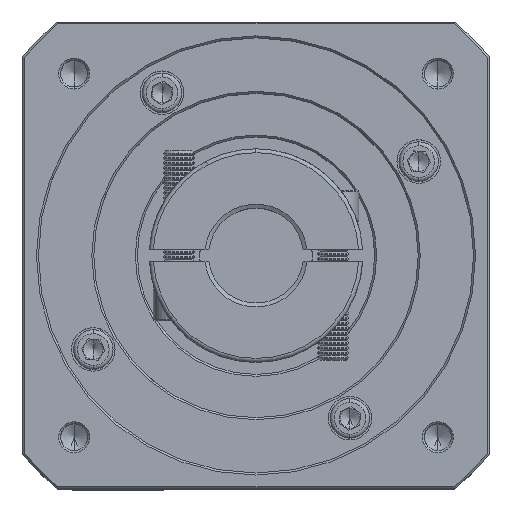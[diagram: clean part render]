
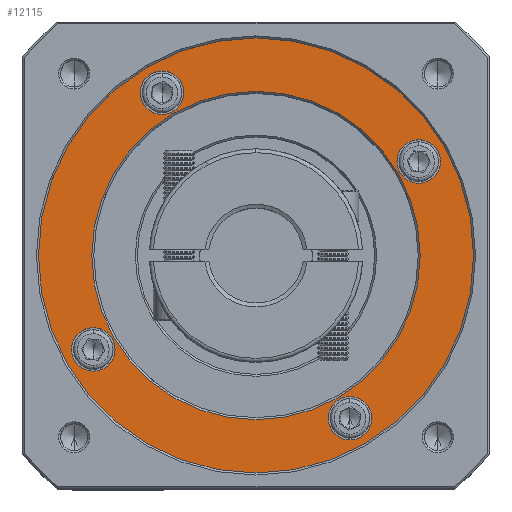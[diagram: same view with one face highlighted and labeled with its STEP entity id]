
A CAD part, top view. The second image highlights one B-rep face of the part: STEP entity #12115.
In plain terms, the highlighted planar face has unit normal (0, 0, 1).
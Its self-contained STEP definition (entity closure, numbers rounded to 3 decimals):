
#3587 = CARTESIAN_POINT ( 'NONE',  ( 52.682, 61.973, 0.694 ) ) ;
#4016 = DIRECTION ( 'NONE',  ( 0., 1., 0. ) ) ;
#7569 = DIRECTION ( 'NONE',  ( 0., 1., 0. ) ) ;
#9487 = DIRECTION ( 'NONE',  ( 0., 0., -1. ) ) ;
#9912 = VERTEX_POINT ( 'NONE', #119466 ) ;
#10875 = FACE_BOUND ( 'NONE', #60666, .T. ) ;
#12115 = ADVANCED_FACE ( 'NONE', ( #126047, #95680, #113241, #62025, #10875, #116435 ), #22321, .T. ) ;
#14175 = AXIS2_PLACEMENT_3D ( 'NONE', #40056, #28934, #100478 ) ;
#18204 = ORIENTED_EDGE ( 'NONE', *, *, #61843, .T. ) ;
#19262 = AXIS2_PLACEMENT_3D ( 'NONE', #126861, #106315, #4016 ) ;
#20558 = ORIENTED_EDGE ( 'NONE', *, *, #48011, .T. ) ;
#20564 = AXIS2_PLACEMENT_3D ( 'NONE', #37113, #37549, #7569 ) ;
#22298 = CIRCLE ( 'NONE', #82133, 5.5 ) ;
#22321 = PLANE ( 'NONE',  #125877 ) ;
#23025 = VERTEX_POINT ( 'NONE', #40121 ) ;
#24941 = VERTEX_POINT ( 'NONE', #72795 ) ;
#25771 = EDGE_CURVE ( 'NONE', #24941, #64041, #34352, .T. ) ;
#26995 = AXIS2_PLACEMENT_3D ( 'NONE', #65155, #65602, #53942 ) ;
#28934 = DIRECTION ( 'NONE',  ( 0., 0., 1. ) ) ;
#29807 = EDGE_CURVE ( 'NONE', #129492, #73311, #79241, .T. ) ;
#29946 = EDGE_LOOP ( 'NONE', ( #18204, #109096 ) ) ;
#30282 = DIRECTION ( 'NONE',  ( 0., 1., 0. ) ) ;
#32166 = DIRECTION ( 'NONE',  ( 0., 1., 0. ) ) ;
#32607 = CARTESIAN_POINT ( 'NONE',  ( 93.818, 85.723, 0.694 ) ) ;
#34296 = DIRECTION ( 'NONE',  ( 0., 0., -1. ) ) ;
#34352 = CIRCLE ( 'NONE', #56051, 5.5 ) ;
#34883 = CIRCLE ( 'NONE', #115845, 5.5 ) ;
#37113 = CARTESIAN_POINT ( 'NONE',  ( 76.432, 20.837, 0.694 ) ) ;
#37549 = DIRECTION ( 'NONE',  ( 0., 0., -1. ) ) ;
#37645 = ORIENTED_EDGE ( 'NONE', *, *, #29807, .T. ) ;
#38242 = DIRECTION ( 'NONE',  ( 0., 0., -1. ) ) ;
#38803 = CIRCLE ( 'NONE', #130133, 5.5 ) ;
#39765 = EDGE_CURVE ( 'NONE', #9912, #23025, #22298, .T. ) ;
#40056 = CARTESIAN_POINT ( 'NONE',  ( 52.682, 61.973, 0.694 ) ) ;
#40121 = CARTESIAN_POINT ( 'NONE',  ( 11.546, 43.723, 0.694 ) ) ;
#41988 = DIRECTION ( 'NONE',  ( 0., 1., 0. ) ) ;
#42368 = EDGE_CURVE ( 'NONE', #108061, #117713, #61515, .T. ) ;
#42497 = EDGE_CURVE ( 'NONE', #117713, #108061, #83955, .T. ) ;
#42812 = EDGE_LOOP ( 'NONE', ( #112972, #37645 ) ) ;
#43541 = CARTESIAN_POINT ( 'NONE',  ( 52.682, 61.973, 0.694 ) ) ;
#44827 = EDGE_CURVE ( 'NONE', #129793, #60375, #106719, .T. ) ;
#45496 = ORIENTED_EDGE ( 'NONE', *, *, #42497, .T. ) ;
#45635 = CIRCLE ( 'NONE', #130362, 41.5 ) ;
#47298 = ORIENTED_EDGE ( 'NONE', *, *, #87938, .T. ) ;
#48011 = EDGE_CURVE ( 'NONE', #23025, #9912, #51060, .T. ) ;
#51060 = CIRCLE ( 'NONE', #102273, 5.5 ) ;
#51726 = CARTESIAN_POINT ( 'NONE',  ( 28.932, 103.11, 0.694 ) ) ;
#52371 = CARTESIAN_POINT ( 'NONE',  ( 94.182, 61.973, 0.694 ) ) ;
#53942 = DIRECTION ( 'NONE',  ( 0., 1., 0. ) ) ;
#55680 = ORIENTED_EDGE ( 'NONE', *, *, #76349, .T. ) ;
#56051 = AXIS2_PLACEMENT_3D ( 'NONE', #75930, #34296, #105410 ) ;
#58363 = DIRECTION ( 'NONE',  ( 0., 1., 0. ) ) ;
#60011 = CARTESIAN_POINT ( 'NONE',  ( 11.546, 38.223, 0.694 ) ) ;
#60375 = VERTEX_POINT ( 'NONE', #103733 ) ;
#60666 = EDGE_LOOP ( 'NONE', ( #20558, #130521 ) ) ;
#61515 = CIRCLE ( 'NONE', #19262, 55. ) ;
#61843 = EDGE_CURVE ( 'NONE', #112682, #125618, #80383, .T. ) ;
#62025 = FACE_BOUND ( 'NONE', #29946, .T. ) ;
#63973 = AXIS2_PLACEMENT_3D ( 'NONE', #32607, #82764, #41988 ) ;
#64041 = VERTEX_POINT ( 'NONE', #120925 ) ;
#64574 = DIRECTION ( 'NONE',  ( 0., 0., -1. ) ) ;
#65155 = CARTESIAN_POINT ( 'NONE',  ( 76.432, 20.837, 0.694 ) ) ;
#65602 = DIRECTION ( 'NONE',  ( 0., 0., -1. ) ) ;
#66557 = ORIENTED_EDGE ( 'NONE', *, *, #44827, .T. ) ;
#72325 = EDGE_LOOP ( 'NONE', ( #45496, #110145 ) ) ;
#72795 = CARTESIAN_POINT ( 'NONE',  ( 28.932, 97.61, 0.694 ) ) ;
#73311 = VERTEX_POINT ( 'NONE', #77010 ) ;
#75930 = CARTESIAN_POINT ( 'NONE',  ( 28.932, 103.11, 0.694 ) ) ;
#75995 = DIRECTION ( 'NONE',  ( 1., 0., 0. ) ) ;
#76349 = EDGE_CURVE ( 'NONE', #60375, #129793, #45635, .T. ) ;
#77010 = CARTESIAN_POINT ( 'NONE',  ( 76.432, 26.337, 0.694 ) ) ;
#77848 = CARTESIAN_POINT ( 'NONE',  ( 93.818, 85.723, 0.694 ) ) ;
#79241 = CIRCLE ( 'NONE', #20564, 5.5 ) ;
#80383 = CIRCLE ( 'NONE', #63973, 5.5 ) ;
#81882 = CARTESIAN_POINT ( 'NONE',  ( 52.682, 61.973, 0.694 ) ) ;
#82133 = AXIS2_PLACEMENT_3D ( 'NONE', #60011, #9487, #90913 ) ;
#82764 = DIRECTION ( 'NONE',  ( 0., 0., -1. ) ) ;
#83955 = CIRCLE ( 'NONE', #14175, 55. ) ;
#87938 = EDGE_CURVE ( 'NONE', #64041, #24941, #34883, .T. ) ;
#90913 = DIRECTION ( 'NONE',  ( 0., 1., 0. ) ) ;
#93517 = CARTESIAN_POINT ( 'NONE',  ( 93.818, 80.223, 0.694 ) ) ;
#95680 = FACE_BOUND ( 'NONE', #106103, .T. ) ;
#99359 = AXIS2_PLACEMENT_3D ( 'NONE', #3587, #127326, #75995 ) ;
#100478 = DIRECTION ( 'NONE',  ( 0., 1., 0. ) ) ;
#102134 = CIRCLE ( 'NONE', #26995, 5.5 ) ;
#102273 = AXIS2_PLACEMENT_3D ( 'NONE', #130256, #38242, #58363 ) ;
#103733 = CARTESIAN_POINT ( 'NONE',  ( 11.182, 61.973, 0.694 ) ) ;
#105410 = DIRECTION ( 'NONE',  ( 0., 1., 0. ) ) ;
#106103 = EDGE_LOOP ( 'NONE', ( #66557, #55680 ) ) ;
#106127 = EDGE_CURVE ( 'NONE', #125618, #112682, #38803, .T. ) ;
#106315 = DIRECTION ( 'NONE',  ( 0., 0., 1. ) ) ;
#106719 = CIRCLE ( 'NONE', #99359, 41.5 ) ;
#108061 = VERTEX_POINT ( 'NONE', #108851 ) ;
#108851 = CARTESIAN_POINT ( 'NONE',  ( 52.682, 6.973, 0.694 ) ) ;
#109096 = ORIENTED_EDGE ( 'NONE', *, *, #106127, .T. ) ;
#109908 = EDGE_CURVE ( 'NONE', #73311, #129492, #102134, .T. ) ;
#110145 = ORIENTED_EDGE ( 'NONE', *, *, #42368, .T. ) ;
#112682 = VERTEX_POINT ( 'NONE', #121894 ) ;
#112972 = ORIENTED_EDGE ( 'NONE', *, *, #109908, .T. ) ;
#113241 = FACE_BOUND ( 'NONE', #132210, .T. ) ;
#113422 = DIRECTION ( 'NONE',  ( 0., 0., -1. ) ) ;
#114213 = DIRECTION ( 'NONE',  ( 1., 0., 0. ) ) ;
#115845 = AXIS2_PLACEMENT_3D ( 'NONE', #51726, #113422, #30282 ) ;
#115863 = CARTESIAN_POINT ( 'NONE',  ( 76.432, 15.337, 0.694 ) ) ;
#116435 = FACE_BOUND ( 'NONE', #42812, .T. ) ;
#117713 = VERTEX_POINT ( 'NONE', #126076 ) ;
#119466 = CARTESIAN_POINT ( 'NONE',  ( 11.546, 32.723, 0.694 ) ) ;
#119761 = DIRECTION ( 'NONE',  ( 0., 0., -1. ) ) ;
#120925 = CARTESIAN_POINT ( 'NONE',  ( 28.932, 108.61, 0.694 ) ) ;
#121894 = CARTESIAN_POINT ( 'NONE',  ( 93.818, 91.223, 0.694 ) ) ;
#124188 = DIRECTION ( 'NONE',  ( 0., 0., 1. ) ) ;
#125342 = ORIENTED_EDGE ( 'NONE', *, *, #25771, .T. ) ;
#125618 = VERTEX_POINT ( 'NONE', #93517 ) ;
#125877 = AXIS2_PLACEMENT_3D ( 'NONE', #81882, #124188, #32166 ) ;
#126047 = FACE_OUTER_BOUND ( 'NONE', #72325, .T. ) ;
#126076 = CARTESIAN_POINT ( 'NONE',  ( 52.682, 116.973, 0.694 ) ) ;
#126861 = CARTESIAN_POINT ( 'NONE',  ( 52.682, 61.973, 0.694 ) ) ;
#127326 = DIRECTION ( 'NONE',  ( 0., 0., -1. ) ) ;
#129492 = VERTEX_POINT ( 'NONE', #115863 ) ;
#129553 = DIRECTION ( 'NONE',  ( 0., 1., 0. ) ) ;
#129793 = VERTEX_POINT ( 'NONE', #52371 ) ;
#130133 = AXIS2_PLACEMENT_3D ( 'NONE', #77848, #119761, #129553 ) ;
#130256 = CARTESIAN_POINT ( 'NONE',  ( 11.546, 38.223, 0.694 ) ) ;
#130362 = AXIS2_PLACEMENT_3D ( 'NONE', #43541, #64574, #114213 ) ;
#130521 = ORIENTED_EDGE ( 'NONE', *, *, #39765, .T. ) ;
#132210 = EDGE_LOOP ( 'NONE', ( #47298, #125342 ) ) ;
